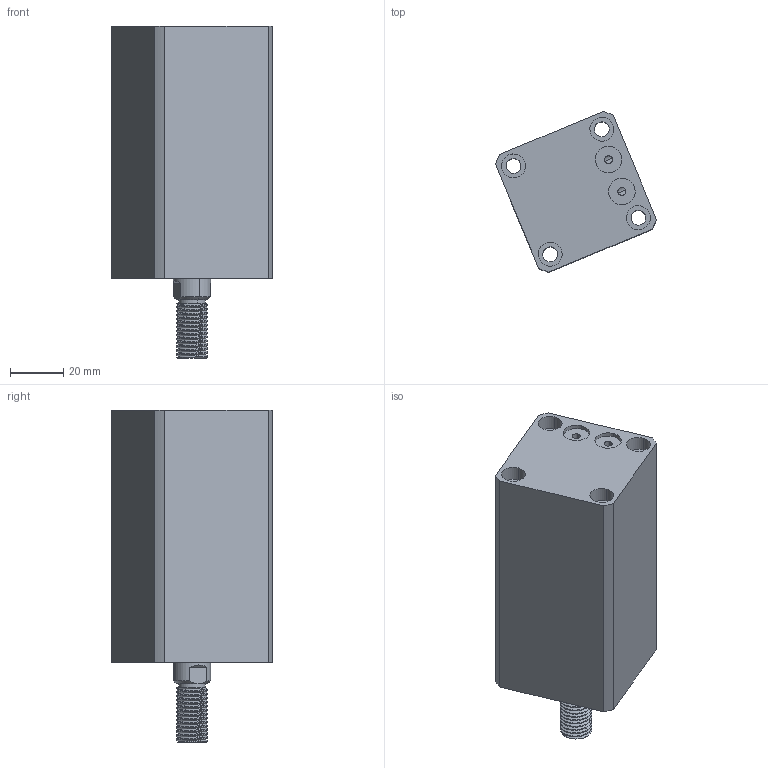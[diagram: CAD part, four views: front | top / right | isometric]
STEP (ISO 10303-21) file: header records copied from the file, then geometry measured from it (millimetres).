
FILE_DESCRIPTION (( 'STEP AP214' ), '1' );
FILE_NAME ('chtb-sdmb25x50w_asm.STEP', '2018-05-24T02:32:25', ( 'Windows' ), ( 'Microsoft' ), 'SwSTEP 2.0', 'SolidWorks 2015', '' );
FILE_SCHEMA (( 'AUTOMOTIVE_DESIGN' ));
Length unit declared in the file: millimetre
Products named in the file (4): CHTB-SDMB25X50WHSG; CHTB-SDMB25X50NBT; CHTB-25QG; chtb-sdmb25x50w_asm
Assembly tree (3 placements, depth 2):
  chtb-sdmb25x50w_asm
    CHTB-25QG
    CHTB-SDMB25X50NBT
    CHTB-SDMB25X50WHSG
Bounding box: 60.55 x 60.55 x 125 mm (x, y, z)
Volume: 190887.4 mm3; surface area: 49786.7 mm2
Topology: 3 solids, 3 shells, 176 faces, 476 edges, 323 vertices
Faces by surface type: cylinder 118, plane 37, bspline 12, cone 9
Entity records: 10721 total; most frequent: CARTESIAN_POINT 6406, ORIENTED_EDGE 944, DIRECTION 765, EDGE_CURVE 472, VERTEX_POINT 323, AXIS2_PLACEMENT_3D 310, EDGE_LOOP 215, ADVANCED_FACE 176
